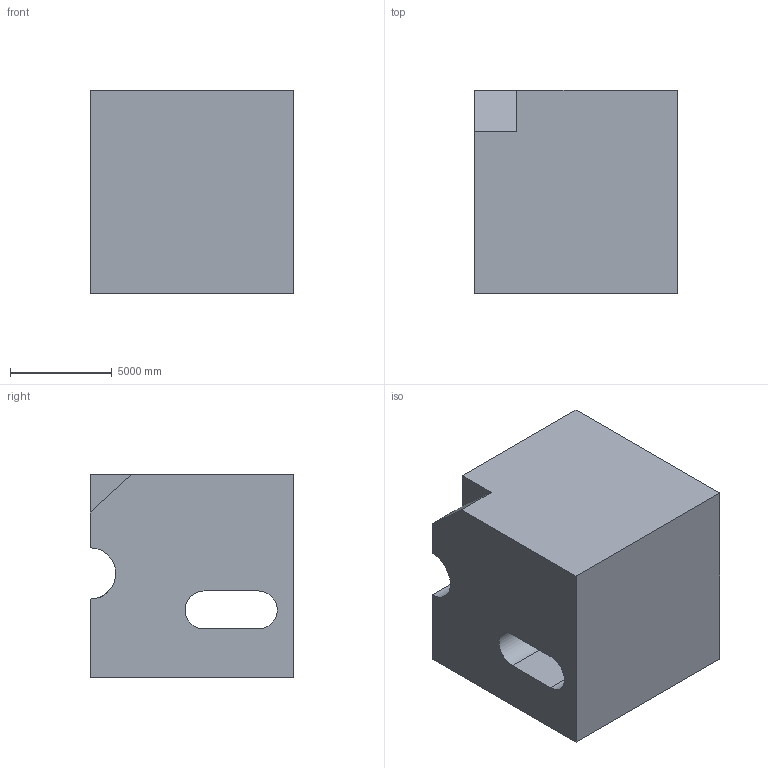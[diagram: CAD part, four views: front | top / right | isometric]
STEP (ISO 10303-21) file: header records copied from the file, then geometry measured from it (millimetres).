
FILE_DESCRIPTION (( 'STEP AP203' ), '1' );
FILE_NAME ('498.STEP', '2022-07-29T11:31:31', ( 'user' ), ( '' ), 'SwSTEP 2.0', 'SolidWorks 2021', '' );
FILE_SCHEMA (( 'CONFIG_CONTROL_DESIGN' ));
Length unit declared in the file: centimetre
Products named in the file (1): 498
Bounding box: 10000 x 10000 x 10000 mm (x, y, z)
Volume: 856852816013.3 mm3; surface area: 739576608.5 mm2
Topology: 1 solids, 1 shells, 25 faces, 72 edges, 48 vertices
Faces by surface type: plane 19, cylinder 6
Entity records: 1043 total; most frequent: CARTESIAN_POINT 306, ORIENTED_EDGE 144, DIRECTION 129, EDGE_CURVE 72, VECTOR 55, LINE 55, VERTEX_POINT 48, AXIS2_PLACEMENT_3D 37
